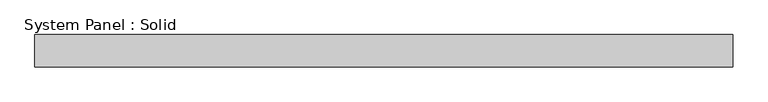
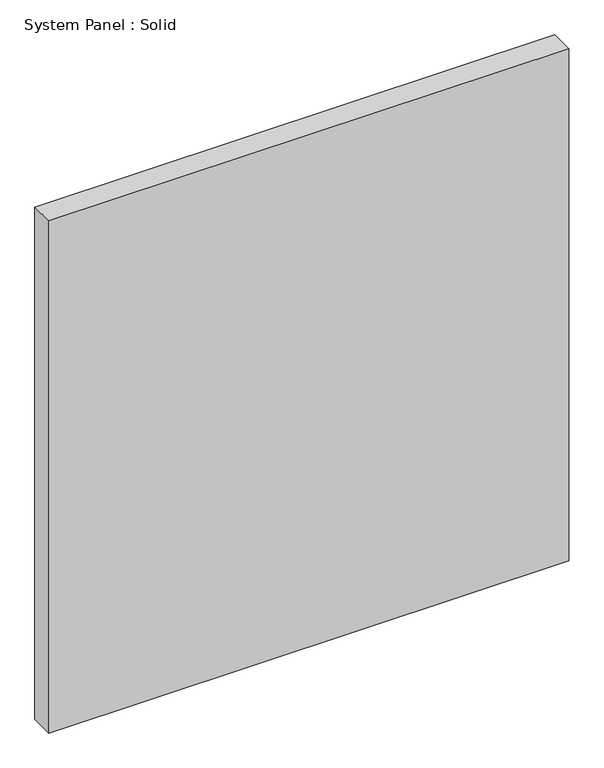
"""IFC4 building model written with IfcOpenShell, lengths in millimetres: plate geometry, System Panel : Solid."""

from ifc_helpers import new_model, si_unit, origin, origin_with_axes, place, context, project, spatial, polyline, outline, extrude, source, transform, mapped, element, save


def system_panel_solid_9d335916(model_context):
    return source(origin(), model_context, "Body", "SweptSolid", [
        extrude(outline(polyline([(685.7999999, -44.45), (-685.7999999, -44.45), (-685.7999999, 19.05), (685.7999999, 19.05), (685.7999999, -44.45)])), origin_with_axes(), (0.0, 0.0, 1.0), 1428.75),
    ])


if __name__ == "__main__":
    model = new_model("IFC4")
    model_context = context("Model", 3, world=origin())
    ifc_project = project(units=[si_unit("LENGTHUNIT", "METRE", prefix="MILLI")], contexts=[model_context])
    site = spatial("IfcSite", under=ifc_project)
    building = spatial("IfcBuilding", under=site)
    placement = place(None, origin())
    system_panel_solid_shape = system_panel_solid_9d335916(model_context)
    element("IfcPlate", 1, ObjectType="System Panel : Solid", at=placement, inside=building, context=model_context, shape_type="MappedRepresentation", body=[
        mapped(system_panel_solid_shape, transform((0.0, 0.0, 0.0), x_axis=(1.0, 0.0, 0.0), y_axis=(0.0, 1.0, 0.0), z_axis=(0.0, 0.0, 1.0))),
    ])
    save(model, "model.ifc")
